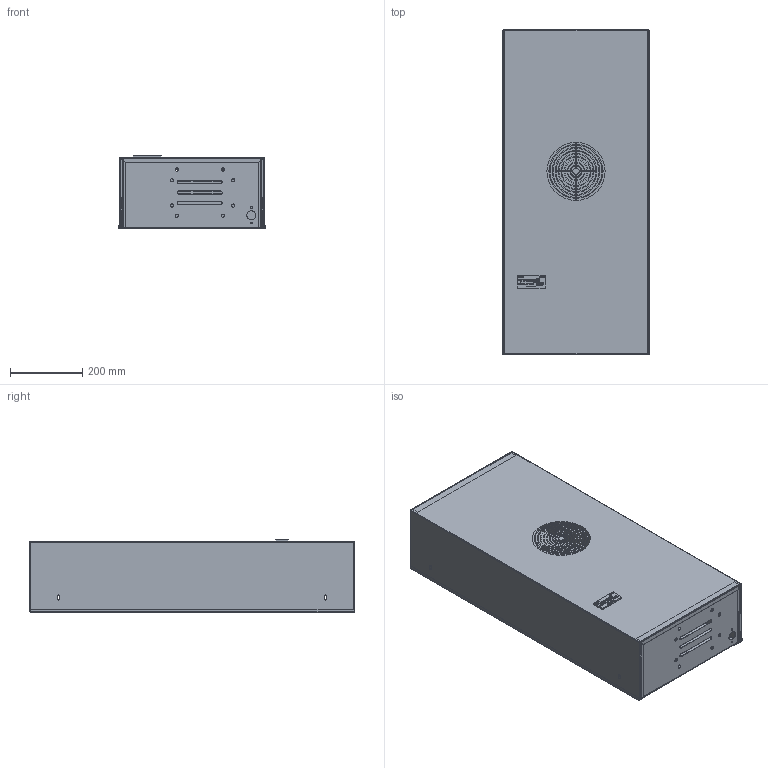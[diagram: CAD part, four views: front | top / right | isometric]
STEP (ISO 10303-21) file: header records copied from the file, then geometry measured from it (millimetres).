
FILE_DESCRIPTION (( 'STEP AP203' ), '1' );
FILE_NAME ('ECD1723-W.STEP', '2024-11-21T15:26:50', ( '' ), ( '' ), 'SwSTEP 2.0', 'SolidWorks 2022', '' );
FILE_SCHEMA (( 'CONFIG_CONTROL_DESIGN' ));
Length unit declared in the file: millimetre
Products named in the file (1): ECD1723-W
Bounding box: 405 x 900 x 203.2 mm (x, y, z)
Volume: 1445396.8 mm3; surface area: 2859264.8 mm2
Topology: 8 solids, 8 shells, 1583 faces, 5108 edges, 3609 vertices
Faces by surface type: plane 1125, cylinder 423, bspline 35
Entity records: 61678 total; most frequent: CARTESIAN_POINT 14967, ORIENTED_EDGE 10204, DIRECTION 8706, EDGE_CURVE 5102, VECTOR 3848, LINE 3848, VERTEX_POINT 3609, AXIS2_PLACEMENT_3D 2429
